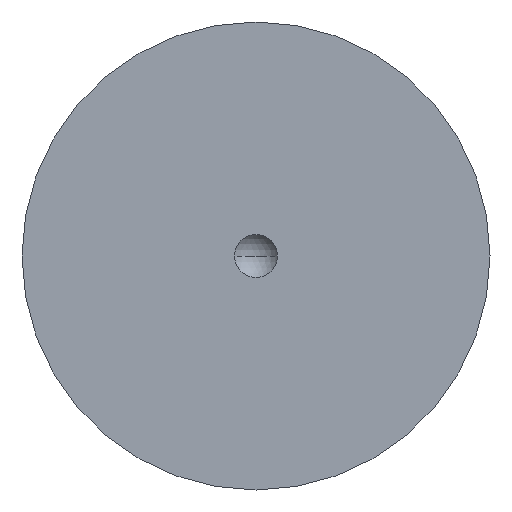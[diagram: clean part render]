
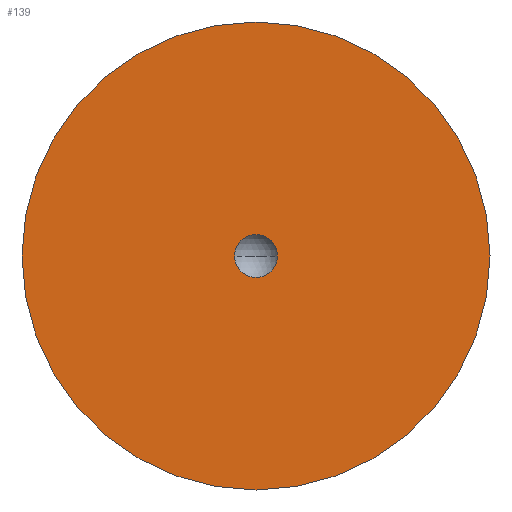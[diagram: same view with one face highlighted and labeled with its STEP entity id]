
A CAD part, front view. The second image highlights one B-rep face of the part: STEP entity #139.
In plain terms, the highlighted planar face has unit normal (0, -1, 0).
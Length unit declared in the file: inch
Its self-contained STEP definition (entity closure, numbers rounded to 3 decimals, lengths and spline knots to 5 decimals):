
#9 = AXIS2_PLACEMENT_3D ( 'NONE', #14, #112, #194 ) ;
#13 = CIRCLE ( 'NONE', #179, 0.625 ) ;
#14 = CARTESIAN_POINT ( 'NONE',  ( -0.625, -0.08, 0. ) ) ;
#22 = VERTEX_POINT ( 'NONE', #255 ) ;
#28 = DIRECTION ( 'NONE',  ( 0., 1., 0. ) ) ;
#35 = EDGE_CURVE ( 'NONE', #56, #22, #44, .T. ) ;
#40 = FACE_OUTER_BOUND ( 'NONE', #212, .T. ) ;
#44 = CIRCLE ( 'NONE', #98, 0.05745 ) ;
#45 = DIRECTION ( 'NONE',  ( 0., 1., 0. ) ) ;
#48 = DIRECTION ( 'NONE',  ( 0., 0., 1. ) ) ;
#56 = VERTEX_POINT ( 'NONE', #241 ) ;
#60 = VERTEX_POINT ( 'NONE', #100 ) ;
#82 = EDGE_LOOP ( 'NONE', ( #232, #256 ) ) ;
#85 = CARTESIAN_POINT ( 'NONE',  ( 0., -0.08, 0. ) ) ;
#86 = AXIS2_PLACEMENT_3D ( 'NONE', #287, #117, #245 ) ;
#98 = AXIS2_PLACEMENT_3D ( 'NONE', #85, #28, #238 ) ;
#100 = CARTESIAN_POINT ( 'NONE',  ( 0., -0.08, 0.625 ) ) ;
#112 = DIRECTION ( 'NONE',  ( 0., -1., 0. ) ) ;
#116 = VERTEX_POINT ( 'NONE', #263 ) ;
#117 = DIRECTION ( 'NONE',  ( 0., 1., 0. ) ) ;
#130 = PLANE ( 'NONE',  #9 ) ;
#131 = CIRCLE ( 'NONE', #86, 0.05745 ) ;
#139 = ADVANCED_FACE ( 'NONE', ( #242, #40 ), #130, .T. ) ;
#143 = AXIS2_PLACEMENT_3D ( 'NONE', #183, #45, #48 ) ;
#166 = ORIENTED_EDGE ( 'NONE', *, *, #197, .F. ) ;
#172 = EDGE_CURVE ( 'NONE', #22, #56, #131, .T. ) ;
#179 = AXIS2_PLACEMENT_3D ( 'NONE', #203, #228, #264 ) ;
#183 = CARTESIAN_POINT ( 'NONE',  ( 0., -0.08, 0. ) ) ;
#193 = EDGE_CURVE ( 'NONE', #116, #60, #265, .T. ) ;
#194 = DIRECTION ( 'NONE',  ( 0., 0., -1. ) ) ;
#197 = EDGE_CURVE ( 'NONE', #60, #116, #13, .T. ) ;
#203 = CARTESIAN_POINT ( 'NONE',  ( 0., -0.08, 0. ) ) ;
#212 = EDGE_LOOP ( 'NONE', ( #166, #257 ) ) ;
#228 = DIRECTION ( 'NONE',  ( 0., 1., 0. ) ) ;
#232 = ORIENTED_EDGE ( 'NONE', *, *, #172, .T. ) ;
#238 = DIRECTION ( 'NONE',  ( 0., 0., 1. ) ) ;
#241 = CARTESIAN_POINT ( 'NONE',  ( 0.05745, -0.08, 0. ) ) ;
#242 = FACE_BOUND ( 'NONE', #82, .T. ) ;
#245 = DIRECTION ( 'NONE',  ( 0., 0., 1. ) ) ;
#255 = CARTESIAN_POINT ( 'NONE',  ( -0.05745, -0.08, 0. ) ) ;
#256 = ORIENTED_EDGE ( 'NONE', *, *, #35, .T. ) ;
#257 = ORIENTED_EDGE ( 'NONE', *, *, #193, .F. ) ;
#263 = CARTESIAN_POINT ( 'NONE',  ( 0., -0.08, -0.625 ) ) ;
#264 = DIRECTION ( 'NONE',  ( 0., 0., 1. ) ) ;
#265 = CIRCLE ( 'NONE', #143, 0.625 ) ;
#287 = CARTESIAN_POINT ( 'NONE',  ( 0., -0.08, 0. ) ) ;
